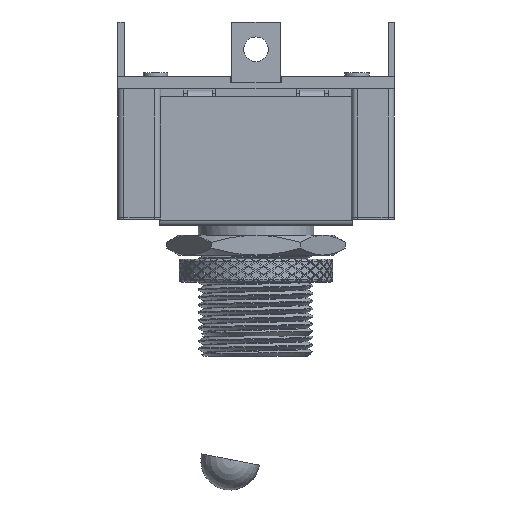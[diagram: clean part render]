
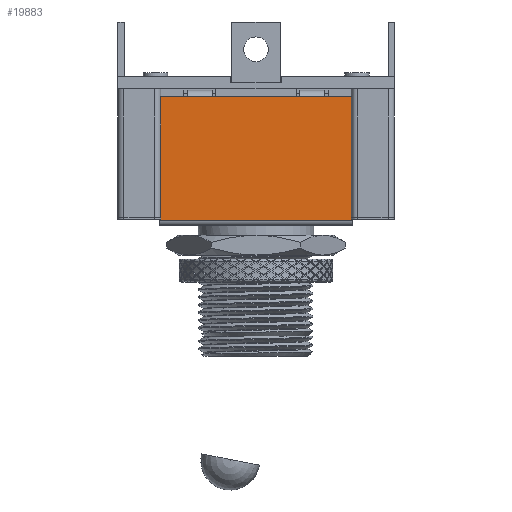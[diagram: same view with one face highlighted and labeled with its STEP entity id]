
A CAD part, left-side view. The second image highlights one B-rep face of the part: STEP entity #19883.
In plain terms, the highlighted planar face has unit normal (-1, 0, 0).
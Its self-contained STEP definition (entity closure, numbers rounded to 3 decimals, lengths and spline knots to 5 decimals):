
#1987=PLANE('',#21233);
#2893=FACE_OUTER_BOUND('',#4093,.T.);
#4093=EDGE_LOOP('',(#13332,#13333,#13334,#13335));
#5402=LINE('',#31024,#6458);
#5407=LINE('',#31036,#6463);
#5423=LINE('',#31072,#6479);
#5424=LINE('',#31073,#6480);
#6458=VECTOR('',#24164,0.3937);
#6463=VECTOR('',#24175,0.3937);
#6479=VECTOR('',#24207,0.3937);
#6480=VECTOR('',#24208,0.3937);
#7950=VERTEX_POINT('',#31021);
#7951=VERTEX_POINT('',#31023);
#7955=VERTEX_POINT('',#31035);
#7967=VERTEX_POINT('',#31071);
#10077=EDGE_CURVE('',#7950,#7951,#5402,.T.);
#10083=EDGE_CURVE('',#7951,#7955,#5407,.T.);
#10101=EDGE_CURVE('',#7967,#7950,#5423,.T.);
#10102=EDGE_CURVE('',#7955,#7967,#5424,.T.);
#13332=ORIENTED_EDGE('',*,*,#10077,.F.);
#13333=ORIENTED_EDGE('',*,*,#10101,.F.);
#13334=ORIENTED_EDGE('',*,*,#10102,.F.);
#13335=ORIENTED_EDGE('',*,*,#10083,.F.);
#19883=ADVANCED_FACE('',(#2893),#1987,.T.);
#21233=AXIS2_PLACEMENT_3D('',#31070,#24205,#24206);
#24164=DIRECTION('',(0.,-1.,0.));
#24175=DIRECTION('',(0.,0.,-1.));
#24205=DIRECTION('center_axis',(-1.,0.,0.));
#24206=DIRECTION('ref_axis',(0.,0.,1.));
#24207=DIRECTION('',(0.,0.,1.));
#24208=DIRECTION('',(0.,1.,0.));
#31021=CARTESIAN_POINT('',(0.,0.789,-0.02));
#31023=CARTESIAN_POINT('',(0.,0.,-0.02));
#31024=CARTESIAN_POINT('',(0.,0.,-0.02));
#31035=CARTESIAN_POINT('',(0.,0.,-0.524));
#31036=CARTESIAN_POINT('',(0.,0.,0.));
#31070=CARTESIAN_POINT('Origin',(0.,0.,-0.524));
#31071=CARTESIAN_POINT('',(0.,0.789,-0.524));
#31072=CARTESIAN_POINT('',(0.,0.789,0.));
#31073=CARTESIAN_POINT('',(0.,0.,-0.524));
